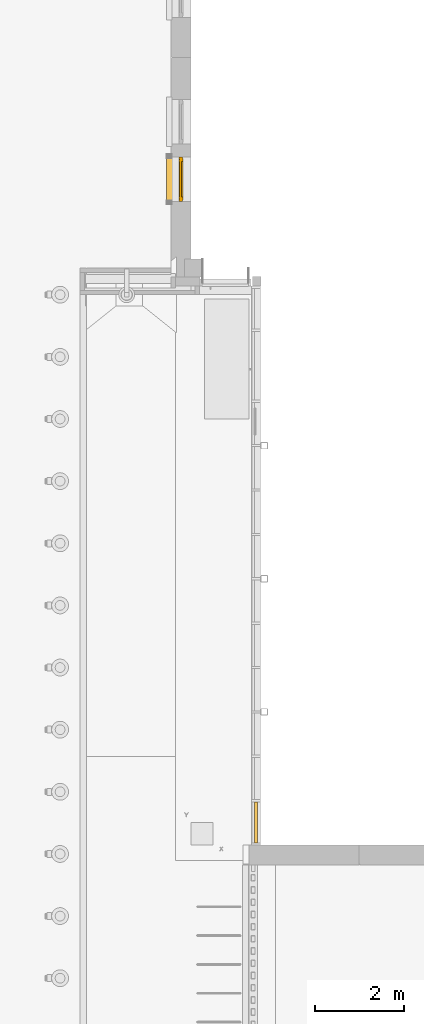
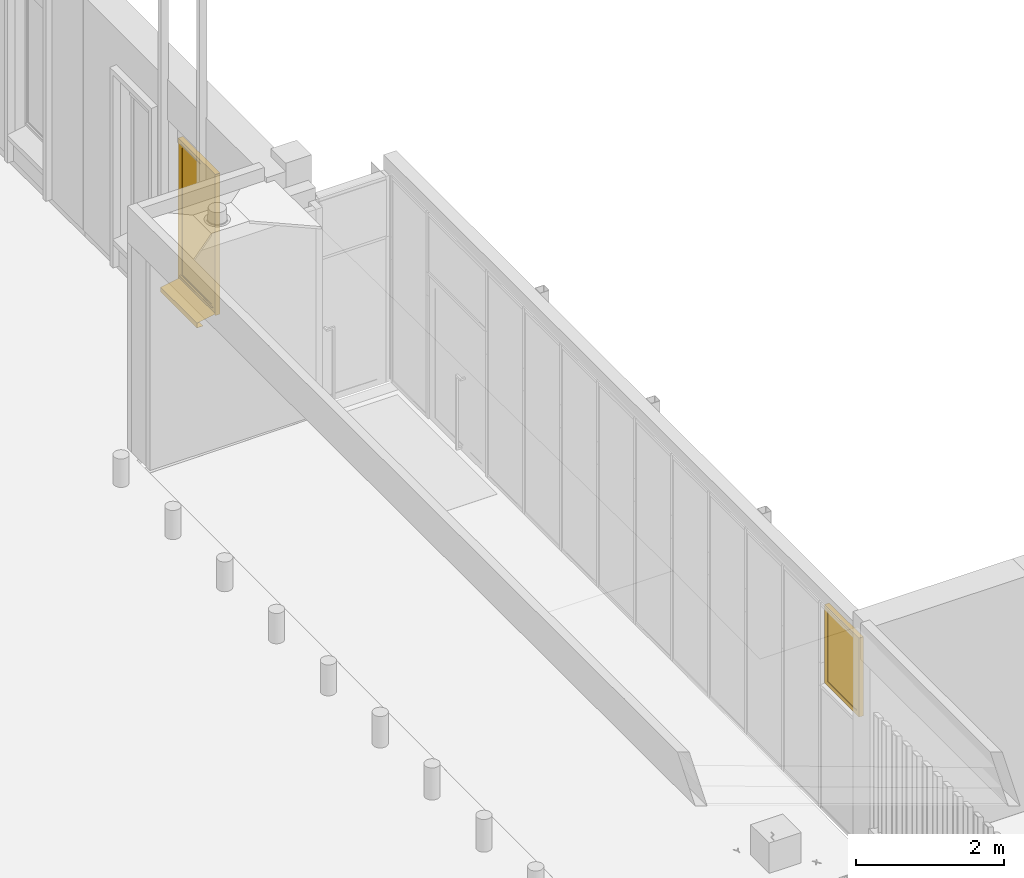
# One storey, part 62 of 77: 2 windows, 1 element without a shape of its own.
"""IFC2X3 building model written with IfcOpenShell, lengths in millimetres."""

from ifc_helpers import new_model, entity, si_unit, converted_unit, derived_unit, direction, frame, origin, origin_2d_with_axis, place, context, subcontext, project, spatial, polyline, rectangle, outline, extrude, faceted_brep, source, transform, mapped, material, material_list, type_object, type_shapes, element, aggregate, save


model = new_model("IFC2X3")

# Units and contexts
model_context = context("Model", 3, precision=0.01, world=origin(), true_north=direction((6.12303176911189e-17, 1.0)))
body_context = subcontext(model_context, "Body", "Model", "MODEL_VIEW")
ifc_project = project(units=[si_unit("LENGTHUNIT", "METRE", prefix="MILLI"), si_unit("AREAUNIT", "SQUARE_METRE"), si_unit("VOLUMEUNIT", "CUBIC_METRE"), converted_unit("PLANEANGLEUNIT", "DEGREE", entity("IfcRatioMeasure", 0.0174532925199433), si_unit("PLANEANGLEUNIT", "RADIAN"), dimensions=[0, 0, 0, 0, 0, 0, 0]), si_unit("MASSUNIT", "GRAM", prefix="KILO"), derived_unit("MASSDENSITYUNIT", [(si_unit("MASSUNIT", "GRAM", prefix="KILO"), 1), (si_unit("LENGTHUNIT", "METRE"), -3)]), si_unit("TIMEUNIT", "SECOND"), si_unit("FREQUENCYUNIT", "HERTZ"), si_unit("THERMODYNAMICTEMPERATUREUNIT", "DEGREE_CELSIUS"), derived_unit("THERMALTRANSMITTANCEUNIT", [(si_unit("MASSUNIT", "GRAM", prefix="KILO"), 1), (si_unit("THERMODYNAMICTEMPERATUREUNIT", "KELVIN"), -1), (si_unit("TIMEUNIT", "SECOND"), -3)]), derived_unit("VOLUMETRICFLOWRATEUNIT", [(si_unit("LENGTHUNIT", "METRE"), 3), (si_unit("TIMEUNIT", "SECOND"), -1)]), si_unit("ELECTRICCURRENTUNIT", "AMPERE"), si_unit("ELECTRICVOLTAGEUNIT", "VOLT"), si_unit("POWERUNIT", "WATT"), si_unit("FORCEUNIT", "NEWTON", prefix="KILO"), si_unit("ILLUMINANCEUNIT", "LUX"), si_unit("LUMINOUSFLUXUNIT", "LUMEN"), si_unit("LUMINOUSINTENSITYUNIT", "CANDELA"), derived_unit("USERDEFINED", [(si_unit("MASSUNIT", "GRAM", prefix="KILO"), -1), (si_unit("LENGTHUNIT", "METRE"), -2), (si_unit("TIMEUNIT", "SECOND"), 3), (si_unit("LUMINOUSFLUXUNIT", "LUMEN"), 1)]), derived_unit("LINEARVELOCITYUNIT", [(si_unit("LENGTHUNIT", "METRE"), 1), (si_unit("TIMEUNIT", "SECOND"), -1)]), si_unit("PRESSUREUNIT", "PASCAL"), derived_unit("USERDEFINED", [(si_unit("LENGTHUNIT", "METRE"), -2), (si_unit("MASSUNIT", "GRAM", prefix="KILO"), 1), (si_unit("TIMEUNIT", "SECOND"), -2)])], contexts=[model_context])

# Site, building, storey
site_placement = place(None, origin())
site = spatial("IfcSite", under=ifc_project, at=site_placement, Name="Default", CompositionType="ELEMENT")
building_placement = place(site_placement, origin())
building = spatial("IfcBuilding", under=site, at=building_placement, CompositionType="ELEMENT")
storey_placement = place(building_placement, origin())
storey = spatial("IfcBuildingStorey", under=building, at=storey_placement, Name="1. KORRUS", CompositionType="ELEMENT", Elevation=0.0)

# Window
ifc_material_1 = material(Name="Aluminium_ALUPROF_black")
ifc_material_2 = material(Name="Glass_ALUPROF_Clear")
ifc_material_3 = material(Name="Glass, Clear Glazing")
ifc_material_4 = material(Name="ExpandingFoam_ALUPROF_Yellow")
ifc_material_list_1 = material_list([ifc_material_1, ifc_material_2, ifc_material_3, ifc_material_4])
ifc_material_list_2 = material_list([ifc_material_1, ifc_material_2, ifc_material_3, ifc_material_4])
window_style_1 = type_object("IfcWindowStyle", Name="A10-1 RC3", ConstructionType="NOTDEFINED", OperationType="NOTDEFINED", ParameterTakesPrecedence=False, Sizeable=False, material=ifc_material_list_2)
shared_shape_1 = source(origin(), body_context, "Body", "Brep", [
    faceted_brep([(950.499999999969, 170.00000211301, 1187.41671082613), (947.847009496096, 170.00000211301, 1186.31780617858), (945.0, 170.00000211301, 1185.94299026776), (942.152990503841, 170.00000211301, 1186.31780617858), (939.499999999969, 170.00000211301, 1187.41671082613), (937.221825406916, 170.00000211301, 1189.1648156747), (935.47372055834, 170.00000211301, 1191.44299026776), (934.374815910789, 170.00000211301, 1194.09598077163), (934.0, 170.00000211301, 1196.94299026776), (934.374815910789, 170.00000211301, 1199.78999976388), (935.47372055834, 170.00000211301, 1202.44299026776), (937.221825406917, 170.00000211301, 1204.72116486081), (939.499999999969, 170.00000211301, 1206.46926970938), (942.152990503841, 170.00000211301, 1207.56817435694), (945.0, 170.00000211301, 1207.94299026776), (947.847009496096, 170.00000211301, 1207.56817435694), (950.499999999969, 170.00000211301, 1206.46926970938), (952.778174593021, 170.00000211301, 1204.72116486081), (954.526279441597, 170.00000211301, 1202.44299026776), (955.625184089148, 170.00000211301, 1199.78999976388), (956.0, 170.00000211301, 1196.94299026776), (955.625184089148, 170.00000211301, 1194.09598077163), (954.526279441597, 170.00000211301, 1191.44299026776), (952.778174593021, 170.00000211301, 1189.1648156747), (956.0, 133.938979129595, 1196.94299026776), (956.0, 126.701055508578, 1196.94299026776), (955.680359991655, 127.586775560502, 1194.31051796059), (934.0, 141.176898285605, 1196.94299026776), (938.751287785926, 129.746962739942, 1187.89016774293), (936.766381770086, 129.155307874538, 1189.64864102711), (934.0, 133.938976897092, 1196.94299026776), (934.319640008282, 127.586775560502, 1194.31051796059), (934.0, 126.701055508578, 1196.94299026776), (948.900653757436, 130.16160054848, 1186.65781159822), (956.0, 155.652742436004, 1196.94299026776), (956.0, 141.176898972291, 1196.94299026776), (953.23361822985, 129.155307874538, 1189.64864102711), (943.67409651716, 130.375124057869, 1186.02319265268), (941.0993462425, 130.16160054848, 1186.65781159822), (934.0, 155.652741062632, 1196.94299026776), (935.259983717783, 128.42102078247, 1191.83103537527), (951.248712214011, 129.746962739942, 1187.89016774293), (946.325903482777, 130.375124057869, 1186.02319265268), (954.740016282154, 128.42102078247, 1191.83103537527), (955.680359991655, 125.815335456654, 1199.57546257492), (954.740016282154, 124.981090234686, 1202.05494516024), (953.233618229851, 124.246803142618, 1204.2373395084), (948.900653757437, 123.240510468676, 1207.2281689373), (951.248712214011, 123.655148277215, 1205.99581279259), (946.325903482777, 123.026986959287, 1207.86278788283), (941.099346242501, 123.240510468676, 1207.2281689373), (943.67409651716, 123.026986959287, 1207.86278788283), (938.751287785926, 123.655148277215, 1205.99581279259), (935.259983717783, 124.981090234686, 1202.05494516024), (936.766381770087, 124.246803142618, 1204.2373395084), (934.319640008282, 125.815335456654, 1199.57546257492)], [[[0, 1, 2, 3, 4, 5, 6, 7, 8, 9, 10, 11, 12, 13, 14, 15, 16, 17, 18, 19, 20, 21, 22, 23]], [[24, 25, 26]], [[27, 28, 29]], [[30, 31, 32]], [[33, 34, 35]], [[24, 36, 35]], [[37, 38, 39]], [[27, 39, 38]], [[27, 38, 28]], [[39, 7, 6]], [[7, 39, 8]], [[2, 37, 3]], [[3, 39, 4]], [[5, 4, 39]], [[5, 39, 6]], [[37, 39, 3]], [[27, 29, 30]], [[29, 40, 30]], [[41, 33, 35]], [[42, 34, 33]], [[34, 21, 20]], [[24, 43, 36]], [[31, 30, 40]], [[43, 24, 26]], [[36, 41, 35]], [[34, 42, 1]], [[42, 2, 1]], [[23, 22, 34]], [[0, 23, 34]], [[1, 0, 34]], [[22, 21, 34]], [[37, 2, 42]], [[44, 17, 45]], [[45, 17, 46]], [[47, 48, 15]], [[16, 48, 46]], [[49, 47, 15]], [[19, 25, 24, 35, 34, 20]], [[18, 25, 19]], [[17, 44, 18]], [[18, 44, 25]], [[46, 17, 16]], [[16, 15, 48]], [[15, 14, 49]], [[50, 51, 13]], [[50, 13, 52]], [[53, 54, 11]], [[11, 55, 53]], [[52, 12, 54]], [[32, 55, 10]], [[13, 12, 52]], [[51, 14, 13]], [[32, 10, 9]], [[10, 55, 11]], [[54, 12, 11]], [[9, 8, 39, 27, 30, 32]], [[49, 14, 51]], [[40, 29, 28, 38, 37, 42, 33, 41, 36, 43, 26, 25, 44, 45, 46, 48, 47, 49, 51, 50, 52, 54, 53, 55, 32, 31]]]),
    faceted_brep([(955.049000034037, 132.571410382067, 1076.38165197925), (955.75962360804, 131.218609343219, 1075.75430164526), (956.0, 129.803982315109, 1075.09828001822), (955.75962360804, 128.389355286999, 1074.44225839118), (955.049000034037, 127.036554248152, 1073.81490805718), (953.899186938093, 125.804703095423, 1073.24364723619), (952.360436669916, 124.747639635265, 1072.75344276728), (950.499999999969, 123.911562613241, 1072.36571893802), (948.399186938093, 123.333012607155, 1072.09742114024), (946.149813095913, 123.037275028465, 1071.96027527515), (943.850186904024, 123.037275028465, 1071.96027527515), (941.600813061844, 123.333012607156, 1072.09742114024), (939.499999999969, 123.911562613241, 1072.36571893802), (937.639563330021, 124.747639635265, 1072.75344276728), (936.100813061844, 125.804703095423, 1073.24364723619), (934.9509999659, 127.036554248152, 1073.81490805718), (934.240376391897, 128.389355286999, 1074.44225839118), (934.0, 129.803982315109, 1075.09828001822), (934.240376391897, 131.218609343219, 1075.75430164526), (934.9509999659, 132.571410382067, 1076.38165197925), (936.100813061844, 133.803261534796, 1076.95291280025), (937.639563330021, 134.860324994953, 1077.44311726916), (939.499999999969, 135.696402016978, 1077.83084109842), (941.600813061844, 136.274952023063, 1078.0991388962), (943.850186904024, 136.570689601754, 1078.23628476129), (946.149813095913, 136.570689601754, 1078.23628476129), (948.399186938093, 136.274952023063, 1078.0991388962), (950.499999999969, 135.696402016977, 1077.83084109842), (952.360436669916, 134.860324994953, 1077.44311726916), (953.899186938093, 133.803261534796, 1076.95291280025), (948.68842375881, 110.773915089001, 1167.30805814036), (951.988167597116, 113.309479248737, 1173.69184263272), (950.573339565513, 123.480940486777, 1206.51358043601), (938.011836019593, 113.298332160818, 1173.64017782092), (936.916337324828, 110.424269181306, 1138.09208915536), (941.318047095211, 110.78223389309, 1167.36552971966), (949.430028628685, 110.108217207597, 1118.21363048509), (953.083662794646, 110.424270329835, 1138.09199796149), (953.508507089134, 124.285448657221, 1204.1224801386), (954.19142126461, 115.243235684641, 1174.69763342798), (956.0, 117.921698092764, 1167.15812458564), (955.371993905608, 125.361108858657, 1200.92548162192), (955.259257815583, 113.22414726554, 1151.54650001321), (934.740741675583, 113.224148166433, 1151.54650003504), (935.808733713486, 115.242085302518, 1174.69325461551), (956.0, 115.553743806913, 1135.8731150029), (955.633972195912, 114.828311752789, 1120.25483715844), (956.0, 119.569975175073, 1104.75673800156), (934.0, 115.553743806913, 1135.8731150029), (934.366027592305, 114.828312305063, 1120.2548371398), (956.0, 126.575723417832, 1197.31549313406), (954.480174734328, 114.941355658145, 1108.09067849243), (935.519825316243, 114.941347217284, 1108.09071919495), (945.0, 111.909607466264, 1104.60802066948), (946.947048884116, 123.054912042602, 1207.77979099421), (934.0, 117.921698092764, 1167.15812458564), (939.426976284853, 123.480881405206, 1206.51375603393), (936.490829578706, 124.285709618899, 1204.1217045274), (943.066992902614, 123.054116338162, 1207.7821559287), (952.291347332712, 113.637257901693, 1105.5197525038), (945.006935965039, 112.485607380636, 1177.75734635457), (934.626914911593, 125.362122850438, 1200.92246790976), (934.0, 126.575723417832, 1197.31549313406), (940.569971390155, 110.108213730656, 1118.21365596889), (945.0, 108.001990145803, 1140.74465153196), (937.708656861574, 113.637244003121, 1105.51980373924), (934.0, 119.569975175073, 1104.75673800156), (952.37817947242, 122.829647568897, 1162.78854282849), (950.664719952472, 129.836643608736, 1187.62362482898), (953.535785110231, 128.954017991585, 1190.24690008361), (934.637953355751, 127.827381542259, 1193.59540647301), (955.361350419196, 127.828051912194, 1193.59341404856), (955.262614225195, 118.655960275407, 1151.6886687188), (936.462897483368, 128.953448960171, 1190.24859131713), (934.642168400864, 118.480307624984, 1151.68312924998), (947.301813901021, 127.545958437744, 1103.04808296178), (947.317709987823, 123.097500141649, 1131.11183665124), (951.509508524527, 125.112826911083, 1107.63594108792), (940.973774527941, 123.421326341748, 1156.56478539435), (942.689045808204, 124.322456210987, 1119.08159943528), (938.456580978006, 121.742418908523, 1131.9901797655), (937.614696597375, 122.804524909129, 1162.65529605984), (939.333792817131, 129.83632392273, 1187.62457497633), (935.412715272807, 120.793234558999, 1117.9491726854), (943.010090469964, 130.336405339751, 1186.13826959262), (934.296285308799, 118.50986941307, 1120.22538200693), (953.261925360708, 120.622705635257, 1132.7989699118), (955.652208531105, 118.652827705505, 1120.22757977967), (938.496755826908, 126.174017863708, 1103.2221644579), (944.682804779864, 123.865773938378, 1155.88247301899), (954.571217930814, 122.920731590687, 1106.67624885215), (950.553982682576, 121.984026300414, 1138.20545146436), (948.405003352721, 123.947871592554, 1159.5706543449), (947.00616715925, 130.335318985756, 1186.14149837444)], [[[0, 1, 2, 3, 4, 5, 6, 7, 8, 9, 10, 11, 12, 13, 14, 15, 16, 17, 18, 19, 20, 21, 22, 23, 24, 25, 26, 27, 28, 29]], [[30, 31, 32]], [[33, 34, 35]], [[30, 36, 37]], [[38, 31, 39]], [[40, 41, 42]], [[43, 34, 44]], [[45, 46, 47]], [[47, 46, 3]], [[45, 40, 42]], [[48, 49, 43]], [[40, 50, 41]], [[51, 46, 42]], [[15, 52, 49]], [[10, 9, 53]], [[30, 32, 54]], [[55, 48, 43]], [[35, 56, 33]], [[57, 44, 33]], [[56, 35, 58]], [[52, 15, 14]], [[59, 36, 7]], [[43, 49, 52]], [[60, 54, 58]], [[61, 62, 55]], [[39, 42, 41]], [[57, 61, 44]], [[58, 35, 60]], [[9, 8, 53]], [[5, 4, 51]], [[31, 30, 37]], [[4, 46, 51]], [[31, 38, 32]], [[5, 59, 6]], [[35, 63, 64]], [[63, 35, 34]], [[5, 51, 59]], [[36, 53, 8]], [[55, 43, 61]], [[51, 37, 59]], [[46, 45, 42]], [[37, 39, 31]], [[7, 36, 8]], [[34, 43, 52]], [[63, 11, 53]], [[42, 37, 51]], [[52, 65, 34]], [[33, 56, 57]], [[66, 16, 49]], [[53, 64, 63]], [[16, 66, 17]], [[11, 10, 53]], [[14, 13, 65]], [[16, 15, 49]], [[63, 12, 11]], [[66, 49, 48]], [[52, 14, 65]], [[12, 65, 13]], [[4, 3, 46]], [[64, 53, 36]], [[3, 2, 47]], [[30, 64, 36]], [[30, 60, 64]], [[54, 60, 30]], [[64, 60, 35]], [[6, 59, 7]], [[59, 37, 36]], [[65, 63, 34]], [[63, 65, 12]], [[33, 44, 34]], [[43, 44, 61]], [[38, 39, 41]], [[42, 39, 37]], [[67, 68, 69]], [[55, 62, 70]], [[71, 72, 69]], [[73, 74, 70]], [[48, 55, 74]], [[75, 76, 77]], [[72, 71, 40]], [[78, 79, 80]], [[81, 82, 78]], [[83, 20, 19]], [[84, 78, 82]], [[74, 85, 48]], [[86, 67, 72]], [[48, 85, 66]], [[72, 40, 45]], [[47, 87, 45]], [[40, 71, 50]], [[80, 88, 83]], [[72, 67, 69]], [[76, 79, 89]], [[72, 90, 86]], [[87, 90, 72]], [[86, 91, 67]], [[27, 26, 75]], [[91, 76, 92]], [[91, 77, 76]], [[88, 80, 79]], [[81, 80, 83]], [[19, 18, 85]], [[90, 87, 1]], [[84, 93, 89]], [[88, 22, 21]], [[82, 81, 73]], [[79, 24, 23]], [[67, 92, 68]], [[25, 24, 75]], [[23, 22, 88]], [[66, 18, 17]], [[86, 77, 91]], [[88, 21, 20]], [[84, 89, 78]], [[19, 85, 83]], [[20, 83, 88]], [[74, 55, 70]], [[75, 26, 25]], [[79, 23, 88]], [[27, 77, 28]], [[75, 77, 27]], [[90, 0, 29]], [[28, 77, 29]], [[77, 86, 90]], [[83, 74, 81]], [[47, 2, 1]], [[0, 90, 1]], [[76, 75, 79]], [[1, 87, 47]], [[93, 68, 92]], [[29, 77, 90]], [[92, 76, 89]], [[79, 75, 24]], [[45, 87, 72]], [[78, 89, 79]], [[67, 91, 92]], [[93, 92, 89]], [[73, 81, 74]], [[80, 81, 78]], [[66, 85, 18]], [[83, 85, 74]], [[61, 57, 56, 58, 54, 32, 38, 41, 50, 71, 69, 68, 93, 84, 82, 73, 70, 62]]]),
    faceted_brep([(936.749999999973, 170.000002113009, 1165.15357110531), (940.729485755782, 170.000002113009, 1163.50521413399), (945.0, 170.000002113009, 1162.94299026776), (949.270514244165, 170.000002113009, 1163.50521413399), (953.249999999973, 170.000002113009, 1165.15357110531), (956.667261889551, 170.000002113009, 1167.77572837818), (959.289419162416, 170.000002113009, 1171.19299026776), (960.937776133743, 170.000002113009, 1175.17247602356), (961.499999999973, 170.00000211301, 1179.44299026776), (961.499999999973, 170.00000211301, 1214.44299026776), (960.937776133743, 170.00000211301, 1218.71350451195), (959.289419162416, 170.00000211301, 1222.69299026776), (956.667261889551, 170.00000211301, 1226.11025215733), (953.249999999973, 170.00000211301, 1228.7324094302), (949.270514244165, 170.00000211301, 1230.38076640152), (945.0, 170.00000211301, 1230.94299026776), (940.729485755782, 170.00000211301, 1230.38076640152), (936.749999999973, 170.00000211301, 1228.7324094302), (933.332738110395, 170.00000211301, 1226.11025215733), (930.71058083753, 170.00000211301, 1222.69299026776), (929.062223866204, 170.00000211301, 1218.71350451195), (928.499999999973, 170.00000211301, 1214.44299026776), (928.499999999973, 170.00000211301, 1179.44299026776), (929.062223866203, 170.00000211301, 1175.17247602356), (930.71058083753, 170.000002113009, 1171.19299026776), (933.332738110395, 170.000002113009, 1167.77572837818), (940.729485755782, 184.000002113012, 1230.38076640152), (945.0, 184.000002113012, 1230.94299026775), (949.270514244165, 184.000002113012, 1230.38076640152), (953.249999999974, 184.000002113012, 1228.7324094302), (956.667261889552, 184.000002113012, 1226.11025215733), (959.289419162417, 184.000002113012, 1222.69299026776), (960.937776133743, 184.000002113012, 1218.71350451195), (961.499999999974, 184.000002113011, 1214.44299026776), (961.499999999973, 184.000002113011, 1179.44299026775), (960.937776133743, 184.000002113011, 1175.17247602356), (959.289419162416, 184.000002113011, 1171.19299026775), (956.667261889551, 184.000002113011, 1167.77572837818), (953.249999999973, 184.000002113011, 1165.15357110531), (949.270514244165, 184.000002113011, 1163.50521413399), (945.0, 184.000002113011, 1162.94299026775), (940.729485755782, 184.000002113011, 1163.50521413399), (936.749999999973, 184.000002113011, 1165.15357110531), (933.332738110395, 184.000002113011, 1167.77572837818), (930.71058083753, 184.000002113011, 1171.19299026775), (929.062223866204, 184.000002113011, 1175.17247602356), (928.499999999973, 184.000002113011, 1179.44299026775), (928.499999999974, 184.000002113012, 1214.44299026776), (929.062223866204, 184.000002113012, 1218.71350451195), (930.71058083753, 184.000002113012, 1222.69299026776), (933.332738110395, 184.000002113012, 1226.11025215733), (936.749999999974, 184.000002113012, 1228.7324094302)], [[[0, 1, 2, 3, 4, 5, 6, 7, 8, 9, 10, 11, 12, 13, 14, 15, 16, 17, 18, 19, 20, 21, 22, 23, 24, 25]], [[26, 27, 28, 29, 30, 31, 32, 33, 34, 35, 36, 37, 38, 39, 40, 41, 42, 43, 44, 45, 46, 47, 48, 49, 50, 51]], [[46, 22, 21, 47]], [[47, 21, 20, 48]], [[48, 20, 19, 49]], [[51, 50, 18, 17]], [[18, 50, 49, 19]], [[26, 51, 17, 16]], [[26, 16, 15, 27]], [[27, 15, 14, 28]], [[28, 14, 13, 29]], [[12, 30, 29, 13]], [[11, 31, 30, 12]], [[11, 10, 32, 31]], [[10, 9, 33, 32]], [[33, 9, 8, 34]], [[34, 8, 7, 35]], [[35, 7, 6, 36]], [[38, 37, 5, 4]], [[5, 37, 36, 6]], [[39, 38, 4, 3]], [[39, 3, 2, 40]], [[40, 2, 1, 41]], [[41, 1, 0, 42]], [[44, 43, 25, 24]], [[25, 43, 42, 0]], [[45, 44, 24, 23]], [[45, 23, 22, 46]]]),
    faceted_brep([(10.0, 193.0, 56.942990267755), (10.0, 257.499999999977, 56.942990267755), (10.0, 257.499999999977, 21.942990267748), (10.0, 193.0, 21.942990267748), (990.0, 193.0, 56.942990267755), (990.0, 193.0, 21.942990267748), (990.0, 257.499999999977, 21.942990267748), (990.0, 257.499999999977, 56.942990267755)], [[[0, 1, 2, 3]], [[4, 5, 6, 7]], [[1, 0, 4, 7]], [[2, 1, 7, 6]], [[3, 2, 6, 5]], [[0, 3, 5, 4]]]),
    faceted_brep([(29.5000000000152, 184.000002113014, 2317.44299026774), (29.5000000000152, 193.0, 2317.44299026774), (29.5000000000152, 193.0, 76.442990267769), (29.5000000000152, 184.000002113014, 76.4429902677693), (99.0, 213.499999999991, 2247.94299026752), (99.0, 184.000002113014, 2247.94299026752), (99.0, 184.000002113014, 145.942990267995), (99.0, 213.499999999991, 145.942990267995), (83.0, 261.499999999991, 2263.94299026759), (83.0, 213.499999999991, 2263.94299026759), (83.0, 213.499999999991, 129.94299026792), (83.0, 261.499999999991, 129.94299026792), (99.0, 270.0, 2247.94299026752), (99.0, 261.499999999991, 2247.94299026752), (99.0, 261.499999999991, 145.942990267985), (99.0, 270.0, 145.942990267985), (65.4999999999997, 264.799312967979, 2281.44299026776), (65.4999999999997, 270.0, 2281.44299026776), (65.4999999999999, 270.0, 112.442990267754), (65.4999999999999, 264.799312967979, 112.442990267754), (47.0, 193.0, 2299.94299026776), (47.0, 264.799312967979, 2299.94299026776), (47.0, 264.799312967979, 93.9429902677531), (47.0, 193.0, 93.9429902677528), (970.499999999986, 193.0, 76.4429902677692), (970.499999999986, 184.000002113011, 76.4429902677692), (901.0, 184.000002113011, 145.942990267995), (901.0, 213.499999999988, 145.942990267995), (917.0, 213.499999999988, 129.94299026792), (917.0, 261.499999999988, 129.94299026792), (901.0, 261.499999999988, 145.942990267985), (901.0, 270.0, 145.942990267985), (934.500000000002, 270.0, 112.442990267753), (934.500000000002, 264.799312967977, 112.442990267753), (953.0, 264.799312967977, 93.942990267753), (953.0, 193.0, 93.942990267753), (970.499999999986, 193.0, 2317.44299026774), (970.499999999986, 184.000002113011, 2317.44299026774), (901.0, 184.000002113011, 2247.94299026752), (901.0, 213.499999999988, 2247.94299026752), (917.0, 213.499999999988, 2263.94299026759), (917.0, 261.499999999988, 2263.94299026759), (901.0, 261.499999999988, 2247.94299026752), (901.0, 270.0, 2247.94299026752), (934.500000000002, 270.0, 2281.44299026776), (934.500000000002, 264.799312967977, 2281.44299026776), (953.0, 264.799312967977, 2299.94299026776), (953.0, 193.0, 2299.94299026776)], [[[0, 1, 2, 3]], [[4, 5, 6, 7]], [[8, 9, 10, 11]], [[12, 13, 14, 15]], [[16, 17, 18, 19]], [[20, 21, 22, 23]], [[3, 2, 24, 25]], [[7, 6, 26, 27]], [[11, 10, 28, 29]], [[15, 14, 30, 31]], [[19, 18, 32, 33]], [[23, 22, 34, 35]], [[25, 24, 36, 37]], [[27, 26, 38, 39]], [[29, 28, 40, 41]], [[31, 30, 42, 43]], [[33, 32, 44, 45]], [[35, 34, 46, 47]], [[23, 35, 47, 20], [1, 36, 24, 2]], [[37, 36, 1, 0]], [[3, 25, 37, 0], [5, 38, 26, 6]], [[39, 38, 5, 4]], [[7, 27, 39, 4], [9, 40, 28, 10]], [[41, 40, 9, 8]], [[11, 29, 41, 8], [13, 42, 30, 14]], [[43, 42, 13, 12]], [[15, 31, 43, 12], [17, 44, 32, 18]], [[45, 44, 17, 16]], [[19, 33, 45, 16], [21, 46, 34, 22]], [[47, 46, 21, 20]]], outer=[[True], [True], [True], [True], [True], [True], [True], [True], [True], [True], [True], [True], [True], [True], [True], [True], [True], [True], [False, True], [True], [True, False], [True], [False, True], [True], [True, False], [True], [False, True], [True], [False, True], [True]]),
    faceted_brep([(10.0, 193.0, 2336.94299026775), (10.0, 270.0, 2336.94299026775), (10.0, 270.0, 56.942990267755), (10.0, 193.0, 56.9429902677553), (47.0, 265.500001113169, 2299.94299026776), (47.0, 193.0, 2299.94299026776), (47.0, 193.0, 93.9429902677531), (47.0, 265.500001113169, 93.9429902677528), (60.4999999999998, 270.0, 2286.44299026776), (60.4999999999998, 265.500001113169, 2286.44299026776), (60.4999999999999, 265.500001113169, 107.442990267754), (60.4999999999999, 270.0, 107.442990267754), (990.0, 270.0, 56.9429902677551), (990.0, 193.0, 56.9429902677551), (953.0, 193.0, 93.9429902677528), (953.0, 265.500001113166, 93.9429902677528), (939.500000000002, 265.500001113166, 107.442990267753), (939.500000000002, 270.0, 107.442990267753), (990.0, 270.0, 2336.94299026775), (990.0, 193.0, 2336.94299026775), (953.0, 193.0, 2299.94299026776), (953.0, 265.500001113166, 2299.94299026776), (939.500000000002, 265.500001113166, 2286.44299026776), (939.500000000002, 270.0, 2286.44299026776)], [[[0, 1, 2, 3]], [[4, 5, 6, 7]], [[8, 9, 10, 11]], [[3, 2, 12, 13]], [[7, 6, 14, 15]], [[11, 10, 16, 17]], [[13, 12, 18, 19]], [[15, 14, 20, 21]], [[17, 16, 22, 23]], [[11, 17, 23, 8], [1, 18, 12, 2]], [[19, 18, 1, 0]], [[3, 13, 19, 0], [5, 20, 14, 6]], [[21, 20, 5, 4]], [[7, 15, 21, 4], [9, 22, 16, 10]], [[23, 22, 9, 8]]], outer=[[True], [True], [True], [True], [True], [True], [True], [True], [True], [False, True], [True], [True, False], [True], [True, False], [True]]),
    faceted_brep([(83.0, 213.499999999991, 2263.94299026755), (83.0, 213.499999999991, 129.942990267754), (917.0, 213.499999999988, 129.942990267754), (917.0, 213.499999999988, 2263.94299026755), (83.0, 261.499999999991, 2263.94299026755), (917.0, 261.499999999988, 2263.94299026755), (917.0, 261.499999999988, 129.942990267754), (83.0, 261.499999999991, 129.942990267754)], [[[0, 1, 2, 3]], [[4, 5, 6, 7]], [[1, 0, 4, 7]], [[2, 1, 7, 6]], [[3, 2, 6, 5]], [[0, 3, 5, 4]]]),
    faceted_brep([(10.0, 270.0, 2336.94299026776), (10.0, 193.0, 2336.94299026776), (10.0, 193.0, 21.9429902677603), (10.0, 270.0, 21.9429902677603), (0.0, 193.0, 2346.94299026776), (0.0, 270.0, 2346.94299026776), (0.0, 270.0, 21.9429902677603), (0.0, 193.0, 21.9429902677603), (990.0, 270.0, 21.9429902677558), (990.0, 193.0, 21.9429902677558), (990.0, 193.0, 2336.94299026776), (990.0, 270.0, 2336.94299026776), (1000.0, 193.0, 21.9429902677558), (1000.0, 270.0, 21.9429902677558), (1000.0, 270.0, 2346.94299026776), (1000.0, 193.0, 2346.94299026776)], [[[0, 1, 2, 3]], [[4, 5, 6, 7]], [[8, 9, 10, 11]], [[12, 13, 14, 15]], [[11, 10, 1, 0]], [[15, 14, 5, 4]], [[12, 9, 8, 13]], [[9, 12, 15, 4, 7, 2, 1, 10]], [[13, 8, 11, 0, 3, 6, 5, 14]], [[7, 6, 3, 2]]]),
    faceted_brep([(65.4999999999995, 271.374652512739, 112.442990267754), (65.4999999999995, 270.000002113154, 112.442990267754), (65.4999999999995, 270.000002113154, 127.425842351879), (65.4999999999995, 288.918549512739, 123.442990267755), (65.4999999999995, 289.918549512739, 117.442990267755), (65.4999999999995, 288.418549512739, 117.442990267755), (65.4999999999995, 287.170258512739, 121.767210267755), (65.4999999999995, 273.924706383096, 124.555747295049), (934.499999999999, 271.374652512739, 112.442990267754), (934.499999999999, 273.924706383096, 124.555747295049), (934.499999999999, 287.170258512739, 121.767210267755), (934.499999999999, 288.418549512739, 117.442990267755), (934.499999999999, 289.918549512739, 117.442990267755), (934.499999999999, 288.918549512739, 123.442990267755), (934.499999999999, 270.000002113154, 127.425842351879), (934.499999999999, 270.000002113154, 112.442990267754)], [[[0, 1, 2, 3, 4, 5, 6, 7]], [[8, 9, 10, 11, 12, 13, 14, 15]], [[1, 0, 8, 15]], [[2, 1, 15, 14]], [[3, 2, 14, 13]], [[4, 3, 13, 12]], [[5, 4, 12, 11]], [[6, 5, 11, 10]], [[7, 6, 10, 9]], [[0, 7, 9, 8]]]),
    faceted_brep([(10.0, 257.499999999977, 38.9429437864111), (10.0, 257.499999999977, 61.9429902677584), (10.0, 259.499999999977, 61.9429902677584), (10.0, 259.499999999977, 40.6211430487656), (10.0, 550.0, -10.6018448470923), (10.0, 550.0, -90.6018448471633), (10.0, 455.0, -90.6018448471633), (10.0, 455.0, -88.601844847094), (10.0, 548.0, -88.601844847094), (10.0, 548.0, -12.2800441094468), (990.0, 257.499999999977, 38.9429437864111), (990.0, 548.0, -12.2800441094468), (990.0, 548.0, -88.601844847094), (990.0, 455.0, -88.601844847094), (990.0, 455.0, -90.6018448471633), (990.0, 550.0, -90.6018448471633), (990.0, 550.0, -10.6018448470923), (990.0, 259.499999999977, 40.6211430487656), (990.0, 259.499999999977, 61.9429902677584), (990.0, 257.499999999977, 61.9429902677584)], [[[0, 1, 2, 3, 4, 5, 6, 7, 8, 9]], [[10, 11, 12, 13, 14, 15, 16, 17, 18, 19]], [[1, 0, 10, 19]], [[2, 1, 19, 18]], [[3, 2, 18, 17]], [[4, 3, 17, 16]], [[5, 4, 16, 15]], [[9, 8, 12, 11]], [[0, 9, 11, 10]], [[6, 5, 15, 14]], [[7, 6, 14, 13]], [[8, 7, 13, 12]]]),
])
type_shapes(window_style_1, [shared_shape_1])
window_1_placement = place(storey_placement, frame((0.0, 14499.9997172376, 478.057009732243), z_axis=(0.0, 0.0, 1.0), x_axis=(0.0, 1.0, 0.0)))
element("IfcWindow", 1, at=window_1_placement, inside=storey, type_object=window_style_1, material=ifc_material_list_1, Name="Aluprof_MB-86-SI_E_Alu_Window-1sash-Tilt-and-turn_ENG_R-00044:A10-1 RC3", ObjectType="A10-1 RC3", OverallHeight=2827.54483511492, OverallWidth=1000.0, context=body_context, shape_type="MappedRepresentation", body=[
    mapped(shared_shape_1, transform((0.0, 0.0, 0.0), scale=1.0)),
])

# Curtain wall, window
curtain_wall_type = type_object("IfcCurtainWallType", Name="Curtain Wall:KF01", PredefinedType="NOTDEFINED")
curtain_wall_placement = place(storey_placement, origin())
curtain_wall = element("IfcCurtainWall", 2, at=curtain_wall_placement, inside=storey, type_object=curtain_wall_type, Name="Curtain Wall:KF01", ObjectType="Curtain Wall:KF01")
ifc_material_5 = material(Name="must (RAL9005)")
ifc_material_list_3 = material_list([ifc_material_3, ifc_material_5])
ifc_material_list_4 = material_list([ifc_material_3, ifc_material_5])
window_style_2 = type_object("IfcWindowStyle", Name="alumiiniumaken", ConstructionType="NOTDEFINED", OperationType="NOTDEFINED", ParameterTakesPrecedence=False, Sizeable=False, material=ifc_material_list_4)
shared_shape_2 = source(origin(), body_context, "Body", "SweptSolid", [
    extrude(rectangle(XDim=46.0, YDim=785.000000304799, at=origin_2d_with_axis()), frame((0.0, 0.0, 70.0), z_axis=(0.0, 0.0, 1.0), x_axis=(0.0, 1.0, 0.0)), (0.0, 0.0, 1.0), 1160.0),
    extrude(outline(polyline([(-462.500000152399, -650.0), (462.500000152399, -650.0), (462.500000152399, 650.0), (-462.500000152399, 650.0), (-462.500000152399, -650.0)]), holes=[polyline([(-392.500000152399, 580.0), (392.500000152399, 580.0), (392.500000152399, -580.0), (-392.500000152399, -580.0), (-392.500000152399, 580.0)])]), frame((0.0, -35.0, 650.0), z_axis=(0.0, 1.0, 0.0), x_axis=(1.0, 0.0, 0.0)), (0.0, 0.0, 1.0), 70.0),
])
type_shapes(window_style_2, [shared_shape_2])
window_2_placement = place(curtain_wall_placement, frame((1460.004537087, 512.500000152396, 2050.0), z_axis=(0.0, 0.0, 1.0), x_axis=(0.0, -1.0, 0.0)))
window_2 = element("IfcWindow", 3, at=window_2_placement, type_object=window_style_2, material=ifc_material_list_3, Name="KF-aken:alumiiniumaken", ObjectType="alumiiniumaken", OverallHeight=1300.02033535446, OverallWidth=925.02021684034, context=body_context, shape_type="MappedRepresentation", body=[
    mapped(shared_shape_2, transform((0.0, 0.0, 0.0), scale=1.0)),
])
aggregate(curtain_wall, [window_2])

save(model, "model.ifc")
